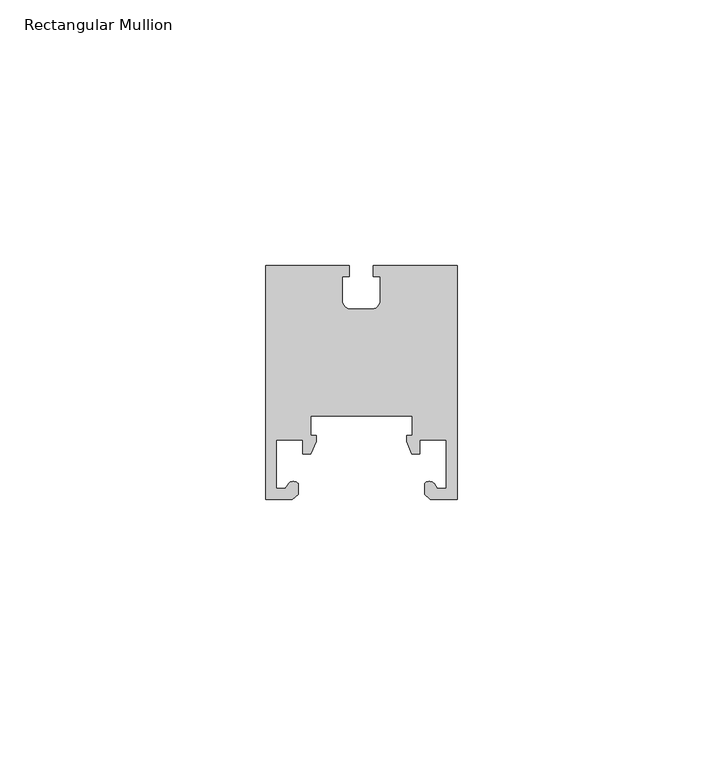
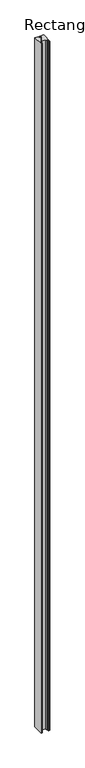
"""IFC4 building model written with IfcOpenShell, lengths in millimetres: member geometry, Rectangular Mullion : NLRS_21_CWM_drager LD.0460 - rechts_Storax."""

from ifc_helpers import new_model, si_unit, point, frame, frame_2d, origin, place, context, project, spatial, polyline, circle_curve, trimmed, segment, composite_curve, outline, extrude, source, transform, mapped, element, save


def rectangular_mullion_35b0a916(model_context):
    return source(origin(), model_context, "Body", "SweptSolid", [
        extrude(outline(composite_curve([segment(polyline([(-86.0, -45.0), (-86.0, -1.0), (-70.2489445, -1.0), (-70.2489445, -3.0843142), (-71.59041, -3.0843142), (-71.59041, -7.4667227)]), True, "CONTINUOUS"), segment(trimmed(circle_curve(frame_2d((-69.8285608, -7.4667227)), 1.7618492), [point((-71.59041, -7.4667227))], [point((-69.559877, -9.2079641))], True, "CARTESIAN"), True, "CONTINUOUS"), segment(polyline([(-69.559877, -9.2079641), (-65.9027553, -9.2079641)]), True, "CONTINUOUS"), segment(trimmed(circle_curve(frame_2d((-66.1714392, -7.4667227)), 1.7618492), [point((-65.9027553, -9.2079641))], [point((-64.40959, -7.4667227))], True, "CARTESIAN"), True, "CONTINUOUS"), segment(polyline([(-64.40959, -7.4667227), (-64.40959, -3.0843142), (-65.7510555, -3.0843142), (-65.7510555, -1.0), (-50.0, -1.0), (-50.0, -45.0), (-55.0, -45.0), (-56.1000941, -44.0769114), (-56.1000941, -42.061549)]), True, "CONTINUOUS"), segment(trimmed(circle_curve(frame_2d((-55.2049928, -42.8498072)), 1.1927101), [point((-56.1000941, -42.061549))], [point((-54.3098916, -42.061549))], False, "CARTESIAN"), True, "CONTINUOUS"), segment(polyline([(-54.3098916, -42.061549), (-53.6747557, -42.9686169), (-52.0, -42.9686169), (-52.0, -33.8153021), (-56.9750091, -33.8153021), (-56.9750091, -36.4593247), (-58.4932704, -36.4593247), (-59.5019532, -34.083017), (-59.5019532, -32.9566029), (-58.4624547, -32.9566029), (-58.4624547, -29.3621189), (-77.5375453, -29.3621189), (-77.5375453, -32.9566029), (-76.4980468, -32.9566029), (-76.4980468, -34.083017), (-77.5067296, -36.4593247), (-79.0249909, -36.4593247), (-79.0249909, -33.8153021), (-84.0, -33.8153021), (-84.0, -42.9686169), (-82.3252443, -42.9686169), (-81.6901084, -42.061549)]), True, "CONTINUOUS"), segment(trimmed(circle_curve(frame_2d((-80.7950072, -42.8498072)), 1.1927101), [point((-81.6901084, -42.061549))], [point((-79.8999059, -42.061549))], False, "CARTESIAN"), True, "CONTINUOUS"), segment(polyline([(-79.8999059, -42.061549), (-79.8999059, -44.0769114), (-81.0, -45.0), (-86.0, -45.0)]), True, "CONTINUOUS")], self_intersect=False)), frame((0.0, 0.0, -3000.0), z_axis=(0.0, 0.0, 1.0), x_axis=(1.0, 0.0, 0.0)), (0.0, 0.0, 1.0), 3000.0),
    ])


if __name__ == "__main__":
    model = new_model("IFC4")
    model_context = context("Model", 3, world=origin())
    ifc_project = project(units=[si_unit("LENGTHUNIT", "METRE", prefix="MILLI")], contexts=[model_context])
    site = spatial("IfcSite", under=ifc_project)
    building = spatial("IfcBuilding", under=site)
    placement = place(None, origin())
    rectangular_mullion_shape = rectangular_mullion_35b0a916(model_context)
    element("IfcMember", 1, ObjectType="Rectangular Mullion : NLRS_21_CWM_drager LD.0460 - rechts_Storax", at=placement, inside=building, context=model_context, shape_type="MappedRepresentation", body=[
        mapped(rectangular_mullion_shape, transform((0.0, 0.0, 0.0), x_axis=(1.0, 0.0, 0.0), y_axis=(0.0, 1.0, 0.0), z_axis=(0.0, 0.0, 1.0))),
    ])
    save(model, "model.ifc")
